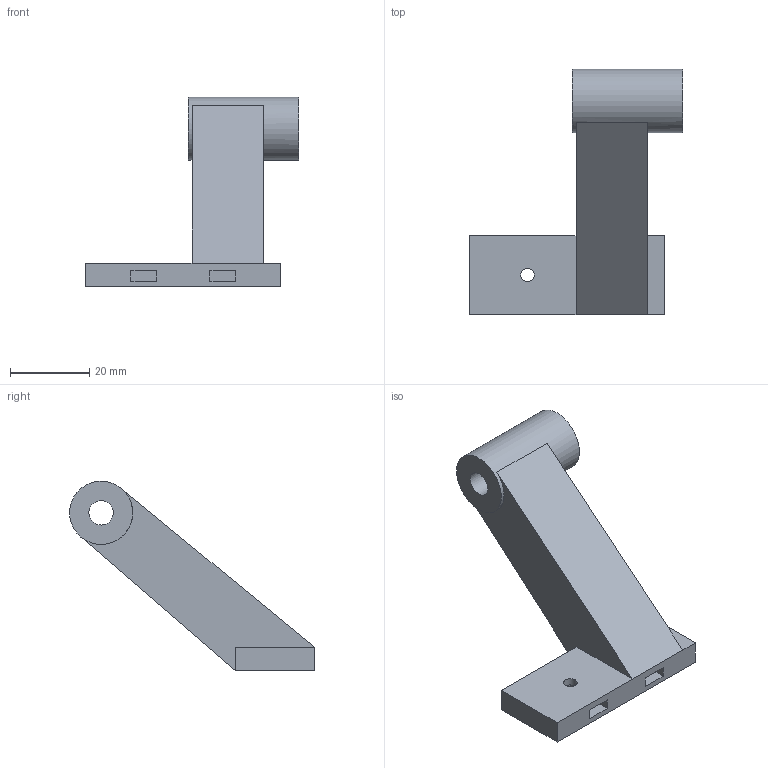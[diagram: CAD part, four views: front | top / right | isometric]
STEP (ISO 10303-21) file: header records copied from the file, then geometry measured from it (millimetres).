
FILE_DESCRIPTION(('Open CASCADE Model'),'2;1');
FILE_NAME('Open CASCADE Shape Model','2026-10-17T21:54:42',('Author'),( 'Open CASCADE'),'Open CASCADE STEP processor 7.9','Open CASCADE 7.9' ,'Unknown');
FILE_SCHEMA(('AUTOMOTIVE_DESIGN { 1 0 10303 214 1 1 1 1 }'));
Length unit declared in the file: millimetre
Products named in the file (1): Open CASCADE STEP translator 7.9 12
Bounding box: 54 x 62 x 48 mm (x, y, z)
Volume: 24607.4 mm3; surface area: 8366.1 mm2
Topology: 1 solids, 1 shells, 31 faces, 74 edges, 48 vertices
Faces by surface type: plane 25, cylinder 6
Full cylindrical faces by diameter (mm): 3.4 x4, 6.2 x1, 16 x1
Entity records: 1891 total; most frequent: CARTESIAN_POINT 408, DIRECTION 261, LINE 162, VECTOR 162, ORIENTED_EDGE 148, PCURVE 148, DEFINITIONAL_REPRESENTATION 148, EDGE_CURVE 74
